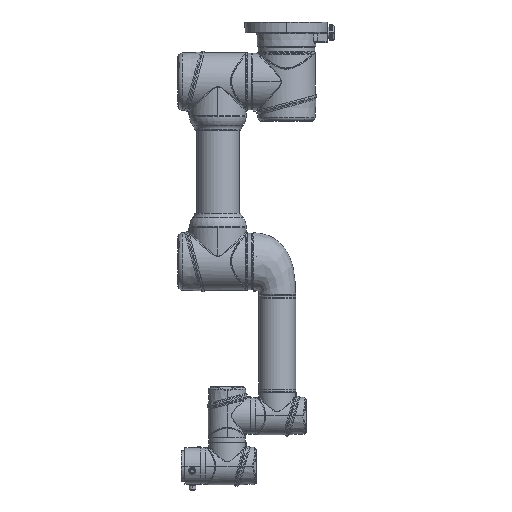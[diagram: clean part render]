
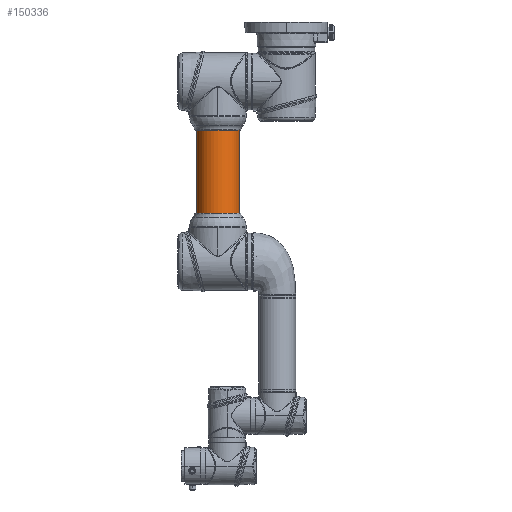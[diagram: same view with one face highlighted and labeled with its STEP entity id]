
A CAD part, left-side view. The second image highlights one B-rep face of the part: STEP entity #150336.
In plain terms, the highlighted cylindrical face has radius 43.5 mm (diameter 87 mm), a partial arc.
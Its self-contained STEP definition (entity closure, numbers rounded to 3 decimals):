
#3618 = ORIENTED_EDGE ( 'NONE', *, *, #208831, .F. ) ;
#4782 = CARTESIAN_POINT ( 'NONE',  ( 43.5, 204., 0. ) ) ;
#6309 = CARTESIAN_POINT ( 'NONE',  ( 43.5, 269., 0. ) ) ;
#24306 = EDGE_CURVE ( 'NONE', #24921, #67781, #233405, .T. ) ;
#24921 = VERTEX_POINT ( 'NONE', #6309 ) ;
#26237 = DIRECTION ( 'NONE',  ( 0., -1., 0. ) ) ;
#31437 = ORIENTED_EDGE ( 'NONE', *, *, #202871, .T. ) ;
#54388 = CARTESIAN_POINT ( 'NONE',  ( 0., 204., 0. ) ) ;
#65700 = DIRECTION ( 'NONE',  ( 0., -1., 0. ) ) ;
#67781 = VERTEX_POINT ( 'NONE', #105424 ) ;
#72283 = CARTESIAN_POINT ( 'NONE',  ( -43.5, 99., 0. ) ) ;
#88327 = EDGE_CURVE ( 'NONE', #165173, #161811, #226949, .T. ) ;
#94811 = CYLINDRICAL_SURFACE ( 'NONE', #147991, 43.5 ) ;
#97772 = AXIS2_PLACEMENT_3D ( 'NONE', #132056, #204299, #222650 ) ;
#99052 = CARTESIAN_POINT ( 'NONE',  ( -43.5, 269., 0. ) ) ;
#99245 = EDGE_LOOP ( 'NONE', ( #3618, #168788, #31437, #196302 ) ) ;
#105424 = CARTESIAN_POINT ( 'NONE',  ( 43.5, 99., 0. ) ) ;
#131516 = DIRECTION ( 'NONE',  ( 0., -1., 0. ) ) ;
#132056 = CARTESIAN_POINT ( 'NONE',  ( 0., 269., 0. ) ) ;
#134737 = AXIS2_PLACEMENT_3D ( 'NONE', #146814, #184847, #182434 ) ;
#146814 = CARTESIAN_POINT ( 'NONE',  ( 0., 99., 0. ) ) ;
#147991 = AXIS2_PLACEMENT_3D ( 'NONE', #54388, #131516, #207394 ) ;
#150336 = ADVANCED_FACE ( 'NONE', ( #220881 ), #94811, .T. ) ;
#155268 = VECTOR ( 'NONE', #65700, 1000. ) ;
#161811 = VERTEX_POINT ( 'NONE', #72283 ) ;
#165173 = VERTEX_POINT ( 'NONE', #99052 ) ;
#168788 = ORIENTED_EDGE ( 'NONE', *, *, #24306, .T. ) ;
#172031 = CIRCLE ( 'NONE', #97772, 43.5 ) ;
#182434 = DIRECTION ( 'NONE',  ( 1., 0., 0. ) ) ;
#184847 = DIRECTION ( 'NONE',  ( 0., 1., 0. ) ) ;
#193925 = CARTESIAN_POINT ( 'NONE',  ( -43.5, 204., 0. ) ) ;
#196302 = ORIENTED_EDGE ( 'NONE', *, *, #88327, .F. ) ;
#202871 = EDGE_CURVE ( 'NONE', #67781, #161811, #228544, .T. ) ;
#204299 = DIRECTION ( 'NONE',  ( 0., 1., 0. ) ) ;
#207394 = DIRECTION ( 'NONE',  ( -1., 0., 0. ) ) ;
#208831 = EDGE_CURVE ( 'NONE', #24921, #165173, #172031, .T. ) ;
#220881 = FACE_OUTER_BOUND ( 'NONE', #99245, .T. ) ;
#222650 = DIRECTION ( 'NONE',  ( 1., 0., 0. ) ) ;
#225429 = VECTOR ( 'NONE', #26237, 1000. ) ;
#226949 = LINE ( 'NONE', #193925, #225429 ) ;
#228544 = CIRCLE ( 'NONE', #134737, 43.5 ) ;
#233405 = LINE ( 'NONE', #4782, #155268 ) ;
